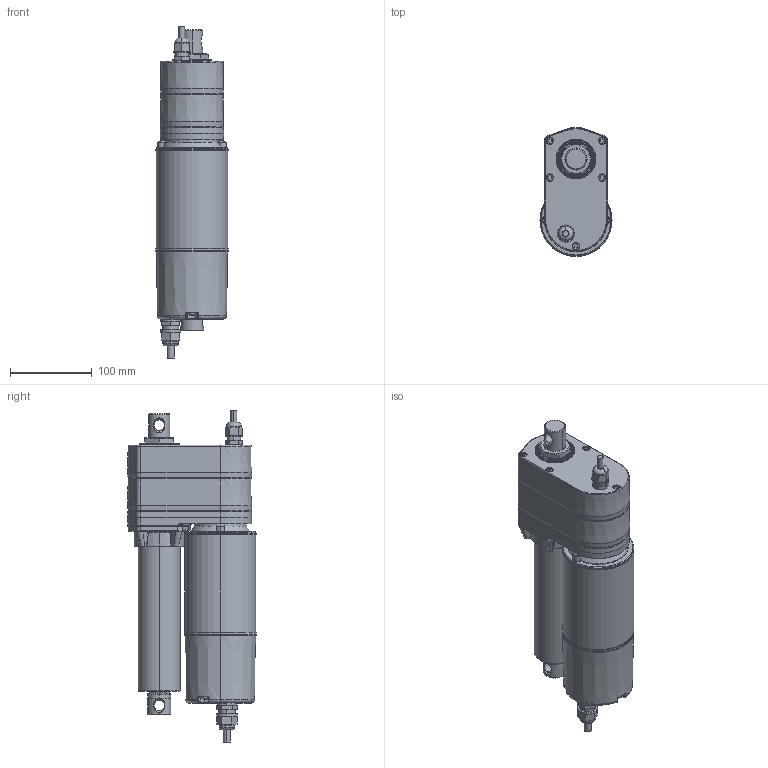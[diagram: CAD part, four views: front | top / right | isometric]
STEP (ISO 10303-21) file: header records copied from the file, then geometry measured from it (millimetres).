
FILE_DESCRIPTION((''),' ');
FILE_NAME('dszy6_pot_102.stp',' ',('R. Lindner'),('MSW GmbH'),' ','ACIS 14.0',' ');
FILE_SCHEMA(('automotive_design'));
Length unit declared in the file: inch
Products named in the file (2): DSZY6-POT-102|NAUO1#I-1;°£®Æ-¦ùªø16; DSZY6-POT-102|NAUO2#-2;°£®Æ-±ÛÂà9
Bounding box: 88 x 157.08 x 405.23 mm (x, y, z)
Volume: 2795015.8 mm3; surface area: 201826.5 mm2
Topology: 2 solids, 2 shells, 1169 faces, 2956 edges, 1822 vertices
Faces by surface type: plane 614, cylinder 241, torus 139, bspline 106, cone 63, sphere 6
Entity records: 48197 total; most frequent: CARTESIAN_POINT 12914, ORIENTED_EDGE 5884, DIRECTION 5063, EDGE_CURVE 2942, AXIS2_PLACEMENT_3D 1952, VERTEX_POINT 1822, EDGE_LOOP 1218, STYLED_ITEM 1171
